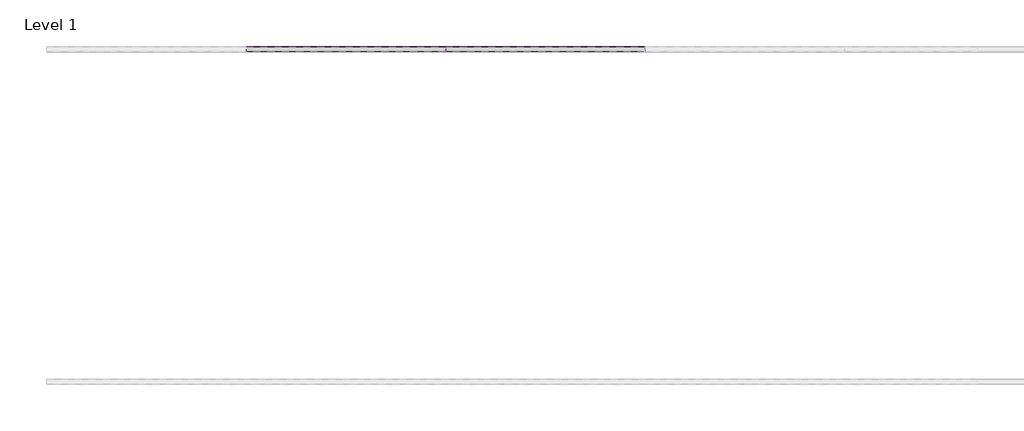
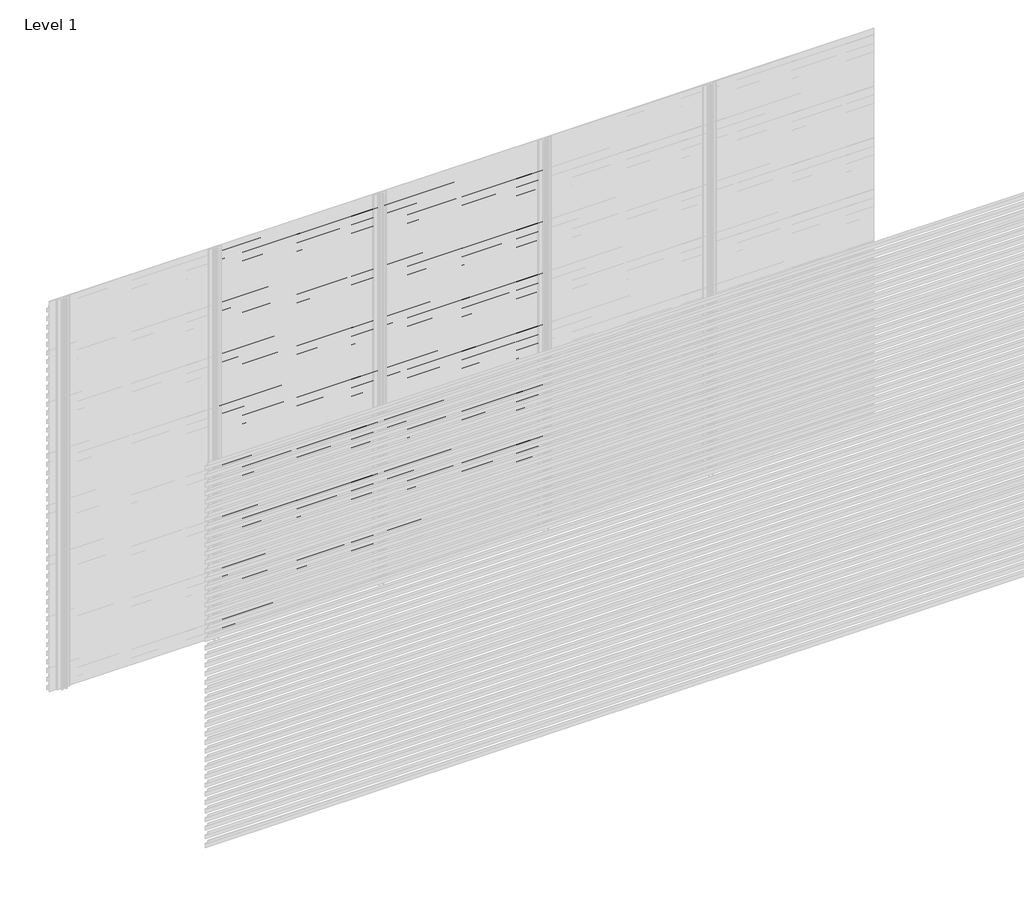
# One storey, part 44 of 540: 85 proxies.
"""IFC4 building model written with IfcOpenShell, lengths in millimetres."""

from ifc_helpers import new_model, si_unit, frame, origin, place, context, project, spatial, polyline, outline, extrude, element, save

model = new_model("IFC4")

# Units and contexts
model_context = context("Model", 3, world=origin())
ifc_project = project(units=[si_unit("LENGTHUNIT", "METRE", prefix="MILLI")], contexts=[model_context])

# Site, building, storey
site = spatial("IfcSite", under=ifc_project)
building = spatial("IfcBuilding", under=site)
storey = spatial("IfcBuildingStorey", under=building, Name="Level 1", Elevation=0.0)

# Proxies
placement = place(None, origin())
element("IfcBuildingElementProxy", 1, Name="Wall Sweeps", at=placement, inside=storey, context=model_context, shape_type="SweptSolid", body=[
    extrude(outline(polyline([(7018.0270068, 2930.0), (7018.0270068, 2897.0), (7016.7770068, 2897.7216933), (7016.7770068, 2929.2872415), (6987.0270068, 2950.0588647), (6987.0270068, 2970.0), (6988.2770068, 2970.0), (6988.2770068, 2950.7716232), (7018.0270068, 2930.0)])), frame((46166.6208097, 0.0, 0.0), z_axis=(1.0, 0.0, 0.0), x_axis=(0.0, 1.0, 0.0)), (0.0, 0.0, 1.0), 1200.0),
])
element("IfcBuildingElementProxy", 2, Name="Wall Sweeps", at=placement, inside=storey, context=model_context, shape_type="SweptSolid", body=[
    extrude(outline(polyline([(7018.0270068, 2864.0), (7018.0270068, 2831.0), (7016.7770068, 2831.7216933), (7016.7770068, 2863.2872415), (6987.0270068, 2884.0588647), (6987.0270068, 2904.0), (6988.2770068, 2904.0), (6988.2770068, 2884.7716232), (7018.0270068, 2864.0)])), frame((46166.6208097, 0.0, 0.0), z_axis=(1.0, 0.0, 0.0), x_axis=(0.0, 1.0, 0.0)), (0.0, 0.0, 1.0), 1200.0),
])
element("IfcBuildingElementProxy", 3, Name="Wall Sweeps", at=placement, inside=storey, context=model_context, shape_type="SweptSolid", body=[
    extrude(outline(polyline([(7018.0270068, 2798.0), (7018.0270068, 2765.0), (7016.7770068, 2765.7216933), (7016.7770068, 2797.2872415), (6987.0270068, 2818.0588647), (6987.0270068, 2838.0), (6988.2770068, 2838.0), (6988.2770068, 2818.7716232), (7018.0270068, 2798.0)])), frame((46166.6208097, 0.0, 0.0), z_axis=(1.0, 0.0, 0.0), x_axis=(0.0, 1.0, 0.0)), (0.0, 0.0, 1.0), 1200.0),
])
element("IfcBuildingElementProxy", 4, Name="Wall Sweeps", at=placement, inside=storey, context=model_context, shape_type="SweptSolid", body=[
    extrude(outline(polyline([(7018.0270068, 2732.0), (7018.0270068, 2699.0), (7016.7770068, 2699.7216933), (7016.7770068, 2731.2872415), (6987.0270068, 2752.0588647), (6987.0270068, 2772.0), (6988.2770068, 2772.0), (6988.2770068, 2752.7716232), (7018.0270068, 2732.0)])), frame((46166.6208097, 0.0, 0.0), z_axis=(1.0, 0.0, 0.0), x_axis=(0.0, 1.0, 0.0)), (0.0, 0.0, 1.0), 1200.0),
])
element("IfcBuildingElementProxy", 5, Name="Wall Sweeps", at=placement, inside=storey, context=model_context, shape_type="SweptSolid", body=[
    extrude(outline(polyline([(7018.0270068, 2666.0), (7018.0270068, 2633.0), (7016.7770068, 2633.7216933), (7016.7770068, 2665.2872415), (6987.0270068, 2686.0588647), (6987.0270068, 2706.0), (6988.2770068, 2706.0), (6988.2770068, 2686.7716232), (7018.0270068, 2666.0)])), frame((46166.6208097, 0.0, 0.0), z_axis=(1.0, 0.0, 0.0), x_axis=(0.0, 1.0, 0.0)), (0.0, 0.0, 1.0), 1200.0),
])
element("IfcBuildingElementProxy", 6, Name="Wall Sweeps", at=placement, inside=storey, context=model_context, shape_type="SweptSolid", body=[
    extrude(outline(polyline([(7018.0270068, 2600.0), (7018.0270068, 2567.0), (7016.7770068, 2567.7216933), (7016.7770068, 2599.2872415), (6987.0270068, 2620.0588647), (6987.0270068, 2640.0), (6988.2770068, 2640.0), (6988.2770068, 2620.7716232), (7018.0270068, 2600.0)])), frame((46166.6208097, 0.0, 0.0), z_axis=(1.0, 0.0, 0.0), x_axis=(0.0, 1.0, 0.0)), (0.0, 0.0, 1.0), 1200.0),
])
element("IfcBuildingElementProxy", 7, Name="Wall Sweeps", at=placement, inside=storey, context=model_context, shape_type="SweptSolid", body=[
    extrude(outline(polyline([(7018.0270068, 2534.0), (7018.0270068, 2501.0), (7016.7770068, 2501.7216933), (7016.7770068, 2533.2872415), (6987.0270068, 2554.0588647), (6987.0270068, 2574.0), (6988.2770068, 2574.0), (6988.2770068, 2554.7716232), (7018.0270068, 2534.0)])), frame((46166.6208097, 0.0, 0.0), z_axis=(1.0, 0.0, 0.0), x_axis=(0.0, 1.0, 0.0)), (0.0, 0.0, 1.0), 1200.0),
])
element("IfcBuildingElementProxy", 8, Name="Wall Sweeps", at=placement, inside=storey, context=model_context, shape_type="SweptSolid", body=[
    extrude(outline(polyline([(7018.0270068, 2468.0), (7018.0270068, 2435.0), (7016.7770068, 2435.7216933), (7016.7770068, 2467.2872415), (6987.0270068, 2488.0588647), (6987.0270068, 2508.0), (6988.2770068, 2508.0), (6988.2770068, 2488.7716232), (7018.0270068, 2468.0)])), frame((46166.6208097, 0.0, 0.0), z_axis=(1.0, 0.0, 0.0), x_axis=(0.0, 1.0, 0.0)), (0.0, 0.0, 1.0), 1200.0),
])
element("IfcBuildingElementProxy", 9, Name="Wall Sweeps", at=placement, inside=storey, context=model_context, shape_type="SweptSolid", body=[
    extrude(outline(polyline([(7018.0270068, 2402.0), (7018.0270068, 2369.0), (7016.7770068, 2369.7216933), (7016.7770068, 2401.2872415), (6987.0270068, 2422.0588647), (6987.0270068, 2442.0), (6988.2770068, 2442.0), (6988.2770068, 2422.7716232), (7018.0270068, 2402.0)])), frame((46166.6208097, 0.0, 0.0), z_axis=(1.0, 0.0, 0.0), x_axis=(0.0, 1.0, 0.0)), (0.0, 0.0, 1.0), 1200.0),
])
element("IfcBuildingElementProxy", 10, Name="Wall Sweeps", at=placement, inside=storey, context=model_context, shape_type="SweptSolid", body=[
    extrude(outline(polyline([(7018.0270068, 2336.0), (7018.0270068, 2303.0), (7016.7770068, 2303.7216933), (7016.7770068, 2335.2872415), (6987.0270068, 2356.0588647), (6987.0270068, 2376.0), (6988.2770068, 2376.0), (6988.2770068, 2356.7716232), (7018.0270068, 2336.0)])), frame((46166.6208097, 0.0, 0.0), z_axis=(1.0, 0.0, 0.0), x_axis=(0.0, 1.0, 0.0)), (0.0, 0.0, 1.0), 1200.0),
])
element("IfcBuildingElementProxy", 11, Name="Wall Sweeps", at=placement, inside=storey, context=model_context, shape_type="SweptSolid", body=[
    extrude(outline(polyline([(7018.0270068, 2270.0), (7018.0270068, 2237.0), (7016.7770068, 2237.7216933), (7016.7770068, 2269.2872415), (6987.0270068, 2290.0588647), (6987.0270068, 2310.0), (6988.2770068, 2310.0), (6988.2770068, 2290.7716232), (7018.0270068, 2270.0)])), frame((46166.6208097, 0.0, 0.0), z_axis=(1.0, 0.0, 0.0), x_axis=(0.0, 1.0, 0.0)), (0.0, 0.0, 1.0), 1200.0),
])
element("IfcBuildingElementProxy", 12, Name="Wall Sweeps", at=placement, inside=storey, context=model_context, shape_type="SweptSolid", body=[
    extrude(outline(polyline([(7018.0270068, 2204.0), (7018.0270068, 2171.0), (7016.7770068, 2171.7216933), (7016.7770068, 2203.2872415), (6987.0270068, 2224.0588647), (6987.0270068, 2244.0), (6988.2770068, 2244.0), (6988.2770068, 2224.7716232), (7018.0270068, 2204.0)])), frame((46166.6208097, 0.0, 0.0), z_axis=(1.0, 0.0, 0.0), x_axis=(0.0, 1.0, 0.0)), (0.0, 0.0, 1.0), 1200.0),
])
element("IfcBuildingElementProxy", 13, Name="Wall Sweeps", at=placement, inside=storey, context=model_context, shape_type="SweptSolid", body=[
    extrude(outline(polyline([(7018.0270068, 2138.0), (7018.0270068, 2105.0), (7016.7770068, 2105.7216933), (7016.7770068, 2137.2872415), (6987.0270068, 2158.0588647), (6987.0270068, 2178.0), (6988.2770068, 2178.0), (6988.2770068, 2158.7716232), (7018.0270068, 2138.0)])), frame((46166.6208097, 0.0, 0.0), z_axis=(1.0, 0.0, 0.0), x_axis=(0.0, 1.0, 0.0)), (0.0, 0.0, 1.0), 1200.0),
])
element("IfcBuildingElementProxy", 14, Name="Wall Sweeps", at=placement, inside=storey, context=model_context, shape_type="SweptSolid", body=[
    extrude(outline(polyline([(7018.0270068, 2072.0), (7018.0270068, 2039.0), (7016.7770068, 2039.7216933), (7016.7770068, 2071.2872415), (6987.0270068, 2092.0588647), (6987.0270068, 2112.0), (6988.2770068, 2112.0), (6988.2770068, 2092.7716232), (7018.0270068, 2072.0)])), frame((46166.6208097, 0.0, 0.0), z_axis=(1.0, 0.0, 0.0), x_axis=(0.0, 1.0, 0.0)), (0.0, 0.0, 1.0), 1200.0),
])
element("IfcBuildingElementProxy", 15, Name="Wall Sweeps", at=placement, inside=storey, context=model_context, shape_type="SweptSolid", body=[
    extrude(outline(polyline([(7018.0270068, 2006.0), (7018.0270068, 1973.0), (7016.7770068, 1973.7216933), (7016.7770068, 2005.2872415), (6987.0270068, 2026.0588647), (6987.0270068, 2046.0), (6988.2770068, 2046.0), (6988.2770068, 2026.7716232), (7018.0270068, 2006.0)])), frame((46166.6208097, 0.0, 0.0), z_axis=(1.0, 0.0, 0.0), x_axis=(0.0, 1.0, 0.0)), (0.0, 0.0, 1.0), 1200.0),
])
element("IfcBuildingElementProxy", 16, Name="Wall Sweeps", at=placement, inside=storey, context=model_context, shape_type="SweptSolid", body=[
    extrude(outline(polyline([(7018.0270068, 1940.0), (7018.0270068, 1907.0), (7016.7770068, 1907.7216933), (7016.7770068, 1939.2872415), (6987.0270068, 1960.0588647), (6987.0270068, 1980.0), (6988.2770068, 1980.0), (6988.2770068, 1960.7716232), (7018.0270068, 1940.0)])), frame((46166.6208097, 0.0, 0.0), z_axis=(1.0, 0.0, 0.0), x_axis=(0.0, 1.0, 0.0)), (0.0, 0.0, 1.0), 1200.0),
])
element("IfcBuildingElementProxy", 17, Name="Wall Sweeps", at=placement, inside=storey, context=model_context, shape_type="SweptSolid", body=[
    extrude(outline(polyline([(7018.0270068, 1874.0), (7018.0270068, 1841.0), (7016.7770068, 1841.7216933), (7016.7770068, 1873.2872415), (6987.0270068, 1894.0588647), (6987.0270068, 1914.0), (6988.2770068, 1914.0), (6988.2770068, 1894.7716232), (7018.0270068, 1874.0)])), frame((46166.6208097, 0.0, 0.0), z_axis=(1.0, 0.0, 0.0), x_axis=(0.0, 1.0, 0.0)), (0.0, 0.0, 1.0), 1200.0),
])
element("IfcBuildingElementProxy", 18, Name="Wall Sweeps", at=placement, inside=storey, context=model_context, shape_type="SweptSolid", body=[
    extrude(outline(polyline([(7018.0270068, 1808.0), (7018.0270068, 1775.0), (7016.7770068, 1775.7216933), (7016.7770068, 1807.2872415), (6987.0270068, 1828.0588647), (6987.0270068, 1848.0), (6988.2770068, 1848.0), (6988.2770068, 1828.7716232), (7018.0270068, 1808.0)])), frame((46166.6208097, 0.0, 0.0), z_axis=(1.0, 0.0, 0.0), x_axis=(0.0, 1.0, 0.0)), (0.0, 0.0, 1.0), 1200.0),
])
element("IfcBuildingElementProxy", 19, Name="Wall Sweeps", at=placement, inside=storey, context=model_context, shape_type="SweptSolid", body=[
    extrude(outline(polyline([(7018.0270068, 1742.0), (7018.0270068, 1709.0), (7016.7770068, 1709.7216933), (7016.7770068, 1741.2872415), (6987.0270068, 1762.0588647), (6987.0270068, 1782.0), (6988.2770068, 1782.0), (6988.2770068, 1762.7716232), (7018.0270068, 1742.0)])), frame((46166.6208097, 0.0, 0.0), z_axis=(1.0, 0.0, 0.0), x_axis=(0.0, 1.0, 0.0)), (0.0, 0.0, 1.0), 1200.0),
])
element("IfcBuildingElementProxy", 20, Name="Wall Sweeps", at=placement, inside=storey, context=model_context, shape_type="SweptSolid", body=[
    extrude(outline(polyline([(7018.0270068, 1676.0), (7018.0270068, 1643.0), (7016.7770068, 1643.7216933), (7016.7770068, 1675.2872415), (6987.0270068, 1696.0588647), (6987.0270068, 1716.0), (6988.2770068, 1716.0), (6988.2770068, 1696.7716232), (7018.0270068, 1676.0)])), frame((46166.6208097, 0.0, 0.0), z_axis=(1.0, 0.0, 0.0), x_axis=(0.0, 1.0, 0.0)), (0.0, 0.0, 1.0), 1200.0),
])
element("IfcBuildingElementProxy", 21, Name="Wall Sweeps", at=placement, inside=storey, context=model_context, shape_type="SweptSolid", body=[
    extrude(outline(polyline([(7018.0270068, 1610.0), (7018.0270068, 1577.0), (7016.7770068, 1577.7216933), (7016.7770068, 1609.2872415), (6987.0270068, 1630.0588647), (6987.0270068, 1650.0), (6988.2770068, 1650.0), (6988.2770068, 1630.7716232), (7018.0270068, 1610.0)])), frame((46166.6208097, 0.0, 0.0), z_axis=(1.0, 0.0, 0.0), x_axis=(0.0, 1.0, 0.0)), (0.0, 0.0, 1.0), 1200.0),
])
element("IfcBuildingElementProxy", 22, Name="Wall Sweeps", at=placement, inside=storey, context=model_context, shape_type="SweptSolid", body=[
    extrude(outline(polyline([(7018.0270068, 1544.0), (7018.0270068, 1511.0), (7016.7770068, 1511.7216933), (7016.7770068, 1543.2872415), (6987.0270068, 1564.0588647), (6987.0270068, 1584.0), (6988.2770068, 1584.0), (6988.2770068, 1564.7716232), (7018.0270068, 1544.0)])), frame((46166.6208097, 0.0, 0.0), z_axis=(1.0, 0.0, 0.0), x_axis=(0.0, 1.0, 0.0)), (0.0, 0.0, 1.0), 1200.0),
])
element("IfcBuildingElementProxy", 23, Name="Wall Sweeps", at=placement, inside=storey, context=model_context, shape_type="SweptSolid", body=[
    extrude(outline(polyline([(7018.0270068, 1478.0), (7018.0270068, 1445.0), (7016.7770068, 1445.7216933), (7016.7770068, 1477.2872415), (6987.0270068, 1498.0588647), (6987.0270068, 1518.0), (6988.2770068, 1518.0), (6988.2770068, 1498.7716232), (7018.0270068, 1478.0)])), frame((46166.6208097, 0.0, 0.0), z_axis=(1.0, 0.0, 0.0), x_axis=(0.0, 1.0, 0.0)), (0.0, 0.0, 1.0), 1200.0),
])
element("IfcBuildingElementProxy", 24, Name="Wall Sweeps", at=placement, inside=storey, context=model_context, shape_type="SweptSolid", body=[
    extrude(outline(polyline([(7018.0270068, 1412.0), (7018.0270068, 1379.0), (7016.7770068, 1379.7216933), (7016.7770068, 1411.2872415), (6987.0270068, 1432.0588647), (6987.0270068, 1452.0), (6988.2770068, 1452.0), (6988.2770068, 1432.7716232), (7018.0270068, 1412.0)])), frame((46166.6208097, 0.0, 0.0), z_axis=(1.0, 0.0, 0.0), x_axis=(0.0, 1.0, 0.0)), (0.0, 0.0, 1.0), 1200.0),
])
element("IfcBuildingElementProxy", 25, Name="Wall Sweeps", at=placement, inside=storey, context=model_context, shape_type="SweptSolid", body=[
    extrude(outline(polyline([(7018.0270068, 1346.0), (7018.0270068, 1313.0), (7016.7770068, 1313.7216933), (7016.7770068, 1345.2872415), (6987.0270068, 1366.0588647), (6987.0270068, 1386.0), (6988.2770068, 1386.0), (6988.2770068, 1366.7716232), (7018.0270068, 1346.0)])), frame((46166.6208097, 0.0, 0.0), z_axis=(1.0, 0.0, 0.0), x_axis=(0.0, 1.0, 0.0)), (0.0, 0.0, 1.0), 1200.0),
])
element("IfcBuildingElementProxy", 26, Name="Wall Sweeps", at=placement, inside=storey, context=model_context, shape_type="SweptSolid", body=[
    extrude(outline(polyline([(7018.0270068, 1280.0), (7018.0270068, 1247.0), (7016.7770068, 1247.7216933), (7016.7770068, 1279.2872415), (6987.0270068, 1300.0588647), (6987.0270068, 1320.0), (6988.2770068, 1320.0), (6988.2770068, 1300.7716232), (7018.0270068, 1280.0)])), frame((46166.6208097, 0.0, 0.0), z_axis=(1.0, 0.0, 0.0), x_axis=(0.0, 1.0, 0.0)), (0.0, 0.0, 1.0), 1200.0),
])
element("IfcBuildingElementProxy", 27, Name="Wall Sweeps", at=placement, inside=storey, context=model_context, shape_type="SweptSolid", body=[
    extrude(outline(polyline([(7018.0270068, 1214.0), (7018.0270068, 1181.0), (7016.7770068, 1181.7216933), (7016.7770068, 1213.2872415), (6987.0270068, 1234.0588647), (6987.0270068, 1254.0), (6988.2770068, 1254.0), (6988.2770068, 1234.7716232), (7018.0270068, 1214.0)])), frame((46166.6208097, 0.0, 0.0), z_axis=(1.0, 0.0, 0.0), x_axis=(0.0, 1.0, 0.0)), (0.0, 0.0, 1.0), 1200.0),
])
element("IfcBuildingElementProxy", 28, Name="Wall Sweeps", at=placement, inside=storey, context=model_context, shape_type="SweptSolid", body=[
    extrude(outline(polyline([(7018.0270068, 1148.0), (7018.0270068, 1115.0), (7016.7770068, 1115.7216933), (7016.7770068, 1147.2872415), (6987.0270068, 1168.0588647), (6987.0270068, 1188.0), (6988.2770068, 1188.0), (6988.2770068, 1168.7716232), (7018.0270068, 1148.0)])), frame((46166.6208097, 0.0, 0.0), z_axis=(1.0, 0.0, 0.0), x_axis=(0.0, 1.0, 0.0)), (0.0, 0.0, 1.0), 1200.0),
])
element("IfcBuildingElementProxy", 29, Name="Wall Sweeps", at=placement, inside=storey, context=model_context, shape_type="SweptSolid", body=[
    extrude(outline(polyline([(7018.0270068, 1082.0), (7018.0270068, 1049.0), (7016.7770068, 1049.7216933), (7016.7770068, 1081.2872415), (6987.0270068, 1102.0588647), (6987.0270068, 1122.0), (6988.2770068, 1122.0), (6988.2770068, 1102.7716232), (7018.0270068, 1082.0)])), frame((46166.6208097, 0.0, 0.0), z_axis=(1.0, 0.0, 0.0), x_axis=(0.0, 1.0, 0.0)), (0.0, 0.0, 1.0), 1200.0),
])
element("IfcBuildingElementProxy", 30, Name="Wall Sweeps", at=placement, inside=storey, context=model_context, shape_type="SweptSolid", body=[
    extrude(outline(polyline([(7018.0270068, 1016.0), (7018.0270068, 983.0), (7016.7770068, 983.7216933), (7016.7770068, 1015.2872415), (6987.0270068, 1036.0588647), (6987.0270068, 1056.0), (6988.2770068, 1056.0), (6988.2770068, 1036.7716232), (7018.0270068, 1016.0)])), frame((46166.6208097, 0.0, 0.0), z_axis=(1.0, 0.0, 0.0), x_axis=(0.0, 1.0, 0.0)), (0.0, 0.0, 1.0), 1200.0),
])
element("IfcBuildingElementProxy", 31, Name="Wall Sweeps", at=placement, inside=storey, context=model_context, shape_type="SweptSolid", body=[
    extrude(outline(polyline([(7018.0270068, 950.0), (7018.0270068, 917.0), (7016.7770068, 917.7216933), (7016.7770068, 949.2872415), (6987.0270068, 970.0588647), (6987.0270068, 990.0), (6988.2770068, 990.0), (6988.2770068, 970.7716232), (7018.0270068, 950.0)])), frame((46166.6208097, 0.0, 0.0), z_axis=(1.0, 0.0, 0.0), x_axis=(0.0, 1.0, 0.0)), (0.0, 0.0, 1.0), 1200.0),
])
element("IfcBuildingElementProxy", 32, Name="Wall Sweeps", at=placement, inside=storey, context=model_context, shape_type="SweptSolid", body=[
    extrude(outline(polyline([(7018.0270068, 884.0), (7018.0270068, 851.0), (7016.7770068, 851.7216933), (7016.7770068, 883.2872415), (6987.0270068, 904.0588647), (6987.0270068, 924.0), (6988.2770068, 924.0), (6988.2770068, 904.7716232), (7018.0270068, 884.0)])), frame((46166.6208097, 0.0, 0.0), z_axis=(1.0, 0.0, 0.0), x_axis=(0.0, 1.0, 0.0)), (0.0, 0.0, 1.0), 1200.0),
])
element("IfcBuildingElementProxy", 33, Name="Wall Sweeps", at=placement, inside=storey, context=model_context, shape_type="SweptSolid", body=[
    extrude(outline(polyline([(7018.0270068, 818.0), (7018.0270068, 785.0), (7016.7770068, 785.7216933), (7016.7770068, 817.2872415), (6987.0270068, 838.0588647), (6987.0270068, 858.0), (6988.2770068, 858.0), (6988.2770068, 838.7716232), (7018.0270068, 818.0)])), frame((46166.6208097, 0.0, 0.0), z_axis=(1.0, 0.0, 0.0), x_axis=(0.0, 1.0, 0.0)), (0.0, 0.0, 1.0), 1200.0),
])
element("IfcBuildingElementProxy", 34, Name="Wall Sweeps", at=placement, inside=storey, context=model_context, shape_type="SweptSolid", body=[
    extrude(outline(polyline([(7018.0270068, 752.0), (7018.0270068, 719.0), (7016.7770068, 719.7216933), (7016.7770068, 751.2872415), (6987.0270068, 772.0588647), (6987.0270068, 792.0), (6988.2770068, 792.0), (6988.2770068, 772.7716232), (7018.0270068, 752.0)])), frame((46166.6208097, 0.0, 0.0), z_axis=(1.0, 0.0, 0.0), x_axis=(0.0, 1.0, 0.0)), (0.0, 0.0, 1.0), 1200.0),
])
element("IfcBuildingElementProxy", 35, Name="Wall Sweeps", at=placement, inside=storey, context=model_context, shape_type="SweptSolid", body=[
    extrude(outline(polyline([(7018.0270068, 686.0), (7018.0270068, 653.0), (7016.7770068, 653.7216933), (7016.7770068, 685.2872415), (6987.0270068, 706.0588647), (6987.0270068, 726.0), (6988.2770068, 726.0), (6988.2770068, 706.7716232), (7018.0270068, 686.0)])), frame((46166.6208097, 0.0, 0.0), z_axis=(1.0, 0.0, 0.0), x_axis=(0.0, 1.0, 0.0)), (0.0, 0.0, 1.0), 1200.0),
])
element("IfcBuildingElementProxy", 36, Name="Wall Sweeps", at=placement, inside=storey, context=model_context, shape_type="SweptSolid", body=[
    extrude(outline(polyline([(7018.0270068, 620.0), (7018.0270068, 587.0), (7016.7770068, 587.7216933), (7016.7770068, 619.2872415), (6987.0270068, 640.0588647), (6987.0270068, 660.0), (6988.2770068, 660.0), (6988.2770068, 640.7716232), (7018.0270068, 620.0)])), frame((46166.6208097, 0.0, 0.0), z_axis=(1.0, 0.0, 0.0), x_axis=(0.0, 1.0, 0.0)), (0.0, 0.0, 1.0), 1200.0),
])
element("IfcBuildingElementProxy", 37, Name="Wall Sweeps", at=placement, inside=storey, context=model_context, shape_type="SweptSolid", body=[
    extrude(outline(polyline([(7018.0270068, 554.0), (7018.0270068, 521.0), (7016.7770068, 521.7216933), (7016.7770068, 553.2872415), (6987.0270068, 574.0588647), (6987.0270068, 594.0), (6988.2770068, 594.0), (6988.2770068, 574.7716232), (7018.0270068, 554.0)])), frame((46166.6208097, 0.0, 0.0), z_axis=(1.0, 0.0, 0.0), x_axis=(0.0, 1.0, 0.0)), (0.0, 0.0, 1.0), 1200.0),
])
element("IfcBuildingElementProxy", 38, Name="Wall Sweeps", at=placement, inside=storey, context=model_context, shape_type="SweptSolid", body=[
    extrude(outline(polyline([(7018.0270068, 488.0), (7018.0270068, 455.0), (7016.7770068, 455.7216933), (7016.7770068, 487.2872415), (6987.0270068, 508.0588647), (6987.0270068, 528.0), (6988.2770068, 528.0), (6988.2770068, 508.7716232), (7018.0270068, 488.0)])), frame((46166.6208097, 0.0, 0.0), z_axis=(1.0, 0.0, 0.0), x_axis=(0.0, 1.0, 0.0)), (0.0, 0.0, 1.0), 1200.0),
])
element("IfcBuildingElementProxy", 39, Name="Wall Sweeps", at=placement, inside=storey, context=model_context, shape_type="SweptSolid", body=[
    extrude(outline(polyline([(7018.0270068, 422.0), (7018.0270068, 389.0), (7016.7770068, 389.7216933), (7016.7770068, 421.2872415), (6987.0270068, 442.0588647), (6987.0270068, 462.0), (6988.2770068, 462.0), (6988.2770068, 442.7716232), (7018.0270068, 422.0)])), frame((46166.6208097, 0.0, 0.0), z_axis=(1.0, 0.0, 0.0), x_axis=(0.0, 1.0, 0.0)), (0.0, 0.0, 1.0), 1200.0),
])
element("IfcBuildingElementProxy", 40, Name="Wall Sweeps", at=placement, inside=storey, context=model_context, shape_type="SweptSolid", body=[
    extrude(outline(polyline([(7018.0270068, 356.0), (7018.0270068, 323.0), (7016.7770068, 323.7216933), (7016.7770068, 355.2872415), (6987.0270068, 376.0588647), (6987.0270068, 396.0), (6988.2770068, 396.0), (6988.2770068, 376.7716232), (7018.0270068, 356.0)])), frame((46166.6208097, 0.0, 0.0), z_axis=(1.0, 0.0, 0.0), x_axis=(0.0, 1.0, 0.0)), (0.0, 0.0, 1.0), 1200.0),
])
element("IfcBuildingElementProxy", 41, Name="Wall Sweeps", at=placement, inside=storey, context=model_context, shape_type="SweptSolid", body=[
    extrude(outline(polyline([(7018.0270068, 290.0), (7018.0270068, 257.0), (7016.7770068, 257.7216933), (7016.7770068, 289.2872415), (6987.0270068, 310.0588647), (6987.0270068, 330.0), (6988.2770068, 330.0), (6988.2770068, 310.7716232), (7018.0270068, 290.0)])), frame((46166.6208097, 0.0, 0.0), z_axis=(1.0, 0.0, 0.0), x_axis=(0.0, 1.0, 0.0)), (0.0, 0.0, 1.0), 1200.0),
])
element("IfcBuildingElementProxy", 42, Name="Wall Sweeps", at=placement, inside=storey, context=model_context, shape_type="SweptSolid", body=[
    extrude(outline(polyline([(7018.0270068, 224.0), (7018.0270068, 191.0), (7016.7770068, 191.7216933), (7016.7770068, 223.2872415), (6987.0270068, 244.0588647), (6987.0270068, 264.0), (6988.2770068, 264.0), (6988.2770068, 244.7716232), (7018.0270068, 224.0)])), frame((46166.6208097, 0.0, 0.0), z_axis=(1.0, 0.0, 0.0), x_axis=(0.0, 1.0, 0.0)), (0.0, 0.0, 1.0), 1200.0),
])
element("IfcBuildingElementProxy", 43, Name="Wall Sweeps", at=placement, inside=storey, context=model_context, shape_type="SweptSolid", body=[
    extrude(outline(polyline([(7018.0270068, 158.0), (7018.0270068, 125.0), (7016.7770068, 125.7216933), (7016.7770068, 157.2872415), (6987.0270068, 178.0588647), (6987.0270068, 198.0), (6988.2770068, 198.0), (6988.2770068, 178.7716232), (7018.0270068, 158.0)])), frame((46166.6208097, 0.0, 0.0), z_axis=(1.0, 0.0, 0.0), x_axis=(0.0, 1.0, 0.0)), (0.0, 0.0, 1.0), 1200.0),
])
element("IfcBuildingElementProxy", 44, Name="Wall Sweeps", at=placement, inside=storey, context=model_context, shape_type="SweptSolid", body=[
    extrude(outline(polyline([(7018.0270068, 92.0), (7018.0270068, 59.0), (7016.7770068, 59.7216933), (7016.7770068, 91.2872415), (6987.0270068, 112.0588647), (6987.0270068, 132.0), (6988.2770068, 132.0), (6988.2770068, 112.7716232), (7018.0270068, 92.0)])), frame((46166.6208097, 0.0, 0.0), z_axis=(1.0, 0.0, 0.0), x_axis=(0.0, 1.0, 0.0)), (0.0, 0.0, 1.0), 1200.0),
])
element("IfcBuildingElementProxy", 45, Name="Wall Sweeps", at=placement, inside=storey, context=model_context, shape_type="SweptSolid", body=[
    extrude(outline(polyline([(7018.0270068, 26.0), (7018.0270068, -7.0), (7016.7770068, -6.2783067), (7016.7770068, 25.2872415), (6987.0270068, 46.0588647), (6987.0270068, 66.0), (6988.2770068, 66.0), (6988.2770068, 46.7716232), (7018.0270068, 26.0)])), frame((46166.6208097, 0.0, 0.0), z_axis=(1.0, 0.0, 0.0), x_axis=(0.0, 1.0, 0.0)), (0.0, 0.0, 1.0), 1200.0),
])
element("IfcBuildingElementProxy", 46, Name="Wall Sweeps", at=placement, inside=storey, context=model_context, shape_type="SweptSolid", body=[
    extrude(outline(polyline([(7018.0270068, 2930.0), (7018.0270068, 2897.0), (7016.7770068, 2897.7216933), (7016.7770068, 2929.2872415), (6987.0270068, 2950.0588647), (6987.0270068, 2970.0), (6988.2770068, 2970.0), (6988.2770068, 2950.7716232), (7018.0270068, 2930.0)])), frame((47366.6208097, 0.0, 0.0), z_axis=(1.0, 0.0, 0.0), x_axis=(0.0, 1.0, 0.0)), (0.0, 0.0, 1.0), 1200.0),
])
element("IfcBuildingElementProxy", 47, Name="Wall Sweeps", at=placement, inside=storey, context=model_context, shape_type="SweptSolid", body=[
    extrude(outline(polyline([(7018.0270068, 2864.0), (7018.0270068, 2831.0), (7016.7770068, 2831.7216933), (7016.7770068, 2863.2872415), (6987.0270068, 2884.0588647), (6987.0270068, 2904.0), (6988.2770068, 2904.0), (6988.2770068, 2884.7716232), (7018.0270068, 2864.0)])), frame((47366.6208097, 0.0, 0.0), z_axis=(1.0, 0.0, 0.0), x_axis=(0.0, 1.0, 0.0)), (0.0, 0.0, 1.0), 1200.0),
])
element("IfcBuildingElementProxy", 48, Name="Wall Sweeps", at=placement, inside=storey, context=model_context, shape_type="SweptSolid", body=[
    extrude(outline(polyline([(7018.0270068, 2798.0), (7018.0270068, 2765.0), (7016.7770068, 2765.7216933), (7016.7770068, 2797.2872415), (6987.0270068, 2818.0588647), (6987.0270068, 2838.0), (6988.2770068, 2838.0), (6988.2770068, 2818.7716232), (7018.0270068, 2798.0)])), frame((47366.6208097, 0.0, 0.0), z_axis=(1.0, 0.0, 0.0), x_axis=(0.0, 1.0, 0.0)), (0.0, 0.0, 1.0), 1200.0),
])
element("IfcBuildingElementProxy", 49, Name="Wall Sweeps", at=placement, inside=storey, context=model_context, shape_type="SweptSolid", body=[
    extrude(outline(polyline([(7018.0270068, 2732.0), (7018.0270068, 2699.0), (7016.7770068, 2699.7216933), (7016.7770068, 2731.2872415), (6987.0270068, 2752.0588647), (6987.0270068, 2772.0), (6988.2770068, 2772.0), (6988.2770068, 2752.7716232), (7018.0270068, 2732.0)])), frame((47366.6208097, 0.0, 0.0), z_axis=(1.0, 0.0, 0.0), x_axis=(0.0, 1.0, 0.0)), (0.0, 0.0, 1.0), 1200.0),
])
element("IfcBuildingElementProxy", 50, Name="Wall Sweeps", at=placement, inside=storey, context=model_context, shape_type="SweptSolid", body=[
    extrude(outline(polyline([(7018.0270068, 2666.0), (7018.0270068, 2633.0), (7016.7770068, 2633.7216933), (7016.7770068, 2665.2872415), (6987.0270068, 2686.0588647), (6987.0270068, 2706.0), (6988.2770068, 2706.0), (6988.2770068, 2686.7716232), (7018.0270068, 2666.0)])), frame((47366.6208097, 0.0, 0.0), z_axis=(1.0, 0.0, 0.0), x_axis=(0.0, 1.0, 0.0)), (0.0, 0.0, 1.0), 1200.0),
])
element("IfcBuildingElementProxy", 51, Name="Wall Sweeps", at=placement, inside=storey, context=model_context, shape_type="SweptSolid", body=[
    extrude(outline(polyline([(7018.0270068, 2600.0), (7018.0270068, 2567.0), (7016.7770068, 2567.7216933), (7016.7770068, 2599.2872415), (6987.0270068, 2620.0588647), (6987.0270068, 2640.0), (6988.2770068, 2640.0), (6988.2770068, 2620.7716232), (7018.0270068, 2600.0)])), frame((47366.6208097, 0.0, 0.0), z_axis=(1.0, 0.0, 0.0), x_axis=(0.0, 1.0, 0.0)), (0.0, 0.0, 1.0), 1200.0),
])
element("IfcBuildingElementProxy", 52, Name="Wall Sweeps", at=placement, inside=storey, context=model_context, shape_type="SweptSolid", body=[
    extrude(outline(polyline([(7018.0270068, 2534.0), (7018.0270068, 2501.0), (7016.7770068, 2501.7216933), (7016.7770068, 2533.2872415), (6987.0270068, 2554.0588647), (6987.0270068, 2574.0), (6988.2770068, 2574.0), (6988.2770068, 2554.7716232), (7018.0270068, 2534.0)])), frame((47366.6208097, 0.0, 0.0), z_axis=(1.0, 0.0, 0.0), x_axis=(0.0, 1.0, 0.0)), (0.0, 0.0, 1.0), 1200.0),
])
element("IfcBuildingElementProxy", 53, Name="Wall Sweeps", at=placement, inside=storey, context=model_context, shape_type="SweptSolid", body=[
    extrude(outline(polyline([(7018.0270068, 2468.0), (7018.0270068, 2435.0), (7016.7770068, 2435.7216933), (7016.7770068, 2467.2872415), (6987.0270068, 2488.0588647), (6987.0270068, 2508.0), (6988.2770068, 2508.0), (6988.2770068, 2488.7716232), (7018.0270068, 2468.0)])), frame((47366.6208097, 0.0, 0.0), z_axis=(1.0, 0.0, 0.0), x_axis=(0.0, 1.0, 0.0)), (0.0, 0.0, 1.0), 1200.0),
])
element("IfcBuildingElementProxy", 54, Name="Wall Sweeps", at=placement, inside=storey, context=model_context, shape_type="SweptSolid", body=[
    extrude(outline(polyline([(7018.0270068, 2402.0), (7018.0270068, 2369.0), (7016.7770068, 2369.7216933), (7016.7770068, 2401.2872415), (6987.0270068, 2422.0588647), (6987.0270068, 2442.0), (6988.2770068, 2442.0), (6988.2770068, 2422.7716232), (7018.0270068, 2402.0)])), frame((47366.6208097, 0.0, 0.0), z_axis=(1.0, 0.0, 0.0), x_axis=(0.0, 1.0, 0.0)), (0.0, 0.0, 1.0), 1200.0),
])
element("IfcBuildingElementProxy", 55, Name="Wall Sweeps", at=placement, inside=storey, context=model_context, shape_type="SweptSolid", body=[
    extrude(outline(polyline([(7018.0270068, 2336.0), (7018.0270068, 2303.0), (7016.7770068, 2303.7216933), (7016.7770068, 2335.2872415), (6987.0270068, 2356.0588647), (6987.0270068, 2376.0), (6988.2770068, 2376.0), (6988.2770068, 2356.7716232), (7018.0270068, 2336.0)])), frame((47366.6208097, 0.0, 0.0), z_axis=(1.0, 0.0, 0.0), x_axis=(0.0, 1.0, 0.0)), (0.0, 0.0, 1.0), 1200.0),
])
element("IfcBuildingElementProxy", 56, Name="Wall Sweeps", at=placement, inside=storey, context=model_context, shape_type="SweptSolid", body=[
    extrude(outline(polyline([(7018.0270068, 2270.0), (7018.0270068, 2237.0), (7016.7770068, 2237.7216933), (7016.7770068, 2269.2872415), (6987.0270068, 2290.0588647), (6987.0270068, 2310.0), (6988.2770068, 2310.0), (6988.2770068, 2290.7716232), (7018.0270068, 2270.0)])), frame((47366.6208097, 0.0, 0.0), z_axis=(1.0, 0.0, 0.0), x_axis=(0.0, 1.0, 0.0)), (0.0, 0.0, 1.0), 1200.0),
])
element("IfcBuildingElementProxy", 57, Name="Wall Sweeps", at=placement, inside=storey, context=model_context, shape_type="SweptSolid", body=[
    extrude(outline(polyline([(7018.0270068, 2204.0), (7018.0270068, 2171.0), (7016.7770068, 2171.7216933), (7016.7770068, 2203.2872415), (6987.0270068, 2224.0588647), (6987.0270068, 2244.0), (6988.2770068, 2244.0), (6988.2770068, 2224.7716232), (7018.0270068, 2204.0)])), frame((47366.6208097, 0.0, 0.0), z_axis=(1.0, 0.0, 0.0), x_axis=(0.0, 1.0, 0.0)), (0.0, 0.0, 1.0), 1200.0),
])
element("IfcBuildingElementProxy", 58, Name="Wall Sweeps", at=placement, inside=storey, context=model_context, shape_type="SweptSolid", body=[
    extrude(outline(polyline([(7018.0270068, 2138.0), (7018.0270068, 2105.0), (7016.7770068, 2105.7216933), (7016.7770068, 2137.2872415), (6987.0270068, 2158.0588647), (6987.0270068, 2178.0), (6988.2770068, 2178.0), (6988.2770068, 2158.7716232), (7018.0270068, 2138.0)])), frame((47366.6208097, 0.0, 0.0), z_axis=(1.0, 0.0, 0.0), x_axis=(0.0, 1.0, 0.0)), (0.0, 0.0, 1.0), 1200.0),
])
element("IfcBuildingElementProxy", 59, Name="Wall Sweeps", at=placement, inside=storey, context=model_context, shape_type="SweptSolid", body=[
    extrude(outline(polyline([(7018.0270068, 2072.0), (7018.0270068, 2039.0), (7016.7770068, 2039.7216933), (7016.7770068, 2071.2872415), (6987.0270068, 2092.0588647), (6987.0270068, 2112.0), (6988.2770068, 2112.0), (6988.2770068, 2092.7716232), (7018.0270068, 2072.0)])), frame((47366.6208097, 0.0, 0.0), z_axis=(1.0, 0.0, 0.0), x_axis=(0.0, 1.0, 0.0)), (0.0, 0.0, 1.0), 1200.0),
])
element("IfcBuildingElementProxy", 60, Name="Wall Sweeps", at=placement, inside=storey, context=model_context, shape_type="SweptSolid", body=[
    extrude(outline(polyline([(7018.0270068, 2006.0), (7018.0270068, 1973.0), (7016.7770068, 1973.7216933), (7016.7770068, 2005.2872415), (6987.0270068, 2026.0588647), (6987.0270068, 2046.0), (6988.2770068, 2046.0), (6988.2770068, 2026.7716232), (7018.0270068, 2006.0)])), frame((47366.6208097, 0.0, 0.0), z_axis=(1.0, 0.0, 0.0), x_axis=(0.0, 1.0, 0.0)), (0.0, 0.0, 1.0), 1200.0),
])
element("IfcBuildingElementProxy", 61, Name="Wall Sweeps", at=placement, inside=storey, context=model_context, shape_type="SweptSolid", body=[
    extrude(outline(polyline([(7018.0270068, 1940.0), (7018.0270068, 1907.0), (7016.7770068, 1907.7216933), (7016.7770068, 1939.2872415), (6987.0270068, 1960.0588647), (6987.0270068, 1980.0), (6988.2770068, 1980.0), (6988.2770068, 1960.7716232), (7018.0270068, 1940.0)])), frame((47366.6208097, 0.0, 0.0), z_axis=(1.0, 0.0, 0.0), x_axis=(0.0, 1.0, 0.0)), (0.0, 0.0, 1.0), 1200.0),
])
element("IfcBuildingElementProxy", 62, Name="Wall Sweeps", at=placement, inside=storey, context=model_context, shape_type="SweptSolid", body=[
    extrude(outline(polyline([(7018.0270068, 1874.0), (7018.0270068, 1841.0), (7016.7770068, 1841.7216933), (7016.7770068, 1873.2872415), (6987.0270068, 1894.0588647), (6987.0270068, 1914.0), (6988.2770068, 1914.0), (6988.2770068, 1894.7716232), (7018.0270068, 1874.0)])), frame((47366.6208097, 0.0, 0.0), z_axis=(1.0, 0.0, 0.0), x_axis=(0.0, 1.0, 0.0)), (0.0, 0.0, 1.0), 1200.0),
])
element("IfcBuildingElementProxy", 63, Name="Wall Sweeps", at=placement, inside=storey, context=model_context, shape_type="SweptSolid", body=[
    extrude(outline(polyline([(7018.0270068, 1808.0), (7018.0270068, 1775.0), (7016.7770068, 1775.7216933), (7016.7770068, 1807.2872415), (6987.0270068, 1828.0588647), (6987.0270068, 1848.0), (6988.2770068, 1848.0), (6988.2770068, 1828.7716232), (7018.0270068, 1808.0)])), frame((47366.6208097, 0.0, 0.0), z_axis=(1.0, 0.0, 0.0), x_axis=(0.0, 1.0, 0.0)), (0.0, 0.0, 1.0), 1200.0),
])
element("IfcBuildingElementProxy", 64, Name="Wall Sweeps", at=placement, inside=storey, context=model_context, shape_type="SweptSolid", body=[
    extrude(outline(polyline([(7018.0270068, 1742.0), (7018.0270068, 1709.0), (7016.7770068, 1709.7216933), (7016.7770068, 1741.2872415), (6987.0270068, 1762.0588647), (6987.0270068, 1782.0), (6988.2770068, 1782.0), (6988.2770068, 1762.7716232), (7018.0270068, 1742.0)])), frame((47366.6208097, 0.0, 0.0), z_axis=(1.0, 0.0, 0.0), x_axis=(0.0, 1.0, 0.0)), (0.0, 0.0, 1.0), 1200.0),
])
element("IfcBuildingElementProxy", 65, Name="Wall Sweeps", at=placement, inside=storey, context=model_context, shape_type="SweptSolid", body=[
    extrude(outline(polyline([(7018.0270068, 1676.0), (7018.0270068, 1643.0), (7016.7770068, 1643.7216933), (7016.7770068, 1675.2872415), (6987.0270068, 1696.0588647), (6987.0270068, 1716.0), (6988.2770068, 1716.0), (6988.2770068, 1696.7716232), (7018.0270068, 1676.0)])), frame((47366.6208097, 0.0, 0.0), z_axis=(1.0, 0.0, 0.0), x_axis=(0.0, 1.0, 0.0)), (0.0, 0.0, 1.0), 1200.0),
])
element("IfcBuildingElementProxy", 66, Name="Wall Sweeps", at=placement, inside=storey, context=model_context, shape_type="SweptSolid", body=[
    extrude(outline(polyline([(7018.0270068, 1610.0), (7018.0270068, 1577.0), (7016.7770068, 1577.7216933), (7016.7770068, 1609.2872415), (6987.0270068, 1630.0588647), (6987.0270068, 1650.0), (6988.2770068, 1650.0), (6988.2770068, 1630.7716232), (7018.0270068, 1610.0)])), frame((47366.6208097, 0.0, 0.0), z_axis=(1.0, 0.0, 0.0), x_axis=(0.0, 1.0, 0.0)), (0.0, 0.0, 1.0), 1200.0),
])
element("IfcBuildingElementProxy", 67, Name="Wall Sweeps", at=placement, inside=storey, context=model_context, shape_type="SweptSolid", body=[
    extrude(outline(polyline([(7018.0270068, 1544.0), (7018.0270068, 1511.0), (7016.7770068, 1511.7216933), (7016.7770068, 1543.2872415), (6987.0270068, 1564.0588647), (6987.0270068, 1584.0), (6988.2770068, 1584.0), (6988.2770068, 1564.7716232), (7018.0270068, 1544.0)])), frame((47366.6208097, 0.0, 0.0), z_axis=(1.0, 0.0, 0.0), x_axis=(0.0, 1.0, 0.0)), (0.0, 0.0, 1.0), 1200.0),
])
element("IfcBuildingElementProxy", 68, Name="Wall Sweeps", at=placement, inside=storey, context=model_context, shape_type="SweptSolid", body=[
    extrude(outline(polyline([(7018.0270068, 1478.0), (7018.0270068, 1445.0), (7016.7770068, 1445.7216933), (7016.7770068, 1477.2872415), (6987.0270068, 1498.0588647), (6987.0270068, 1518.0), (6988.2770068, 1518.0), (6988.2770068, 1498.7716232), (7018.0270068, 1478.0)])), frame((47366.6208097, 0.0, 0.0), z_axis=(1.0, 0.0, 0.0), x_axis=(0.0, 1.0, 0.0)), (0.0, 0.0, 1.0), 1200.0),
])
element("IfcBuildingElementProxy", 69, Name="Wall Sweeps", at=placement, inside=storey, context=model_context, shape_type="SweptSolid", body=[
    extrude(outline(polyline([(7018.0270068, 1412.0), (7018.0270068, 1379.0), (7016.7770068, 1379.7216933), (7016.7770068, 1411.2872415), (6987.0270068, 1432.0588647), (6987.0270068, 1452.0), (6988.2770068, 1452.0), (6988.2770068, 1432.7716232), (7018.0270068, 1412.0)])), frame((47366.6208097, 0.0, 0.0), z_axis=(1.0, 0.0, 0.0), x_axis=(0.0, 1.0, 0.0)), (0.0, 0.0, 1.0), 1200.0),
])
element("IfcBuildingElementProxy", 70, Name="Wall Sweeps", at=placement, inside=storey, context=model_context, shape_type="SweptSolid", body=[
    extrude(outline(polyline([(7018.0270068, 1346.0), (7018.0270068, 1313.0), (7016.7770068, 1313.7216933), (7016.7770068, 1345.2872415), (6987.0270068, 1366.0588647), (6987.0270068, 1386.0), (6988.2770068, 1386.0), (6988.2770068, 1366.7716232), (7018.0270068, 1346.0)])), frame((47366.6208097, 0.0, 0.0), z_axis=(1.0, 0.0, 0.0), x_axis=(0.0, 1.0, 0.0)), (0.0, 0.0, 1.0), 1200.0),
])
element("IfcBuildingElementProxy", 71, Name="Wall Sweeps", at=placement, inside=storey, context=model_context, shape_type="SweptSolid", body=[
    extrude(outline(polyline([(7018.0270068, 1280.0), (7018.0270068, 1247.0), (7016.7770068, 1247.7216933), (7016.7770068, 1279.2872415), (6987.0270068, 1300.0588647), (6987.0270068, 1320.0), (6988.2770068, 1320.0), (6988.2770068, 1300.7716232), (7018.0270068, 1280.0)])), frame((47366.6208097, 0.0, 0.0), z_axis=(1.0, 0.0, 0.0), x_axis=(0.0, 1.0, 0.0)), (0.0, 0.0, 1.0), 1200.0),
])
element("IfcBuildingElementProxy", 72, Name="Wall Sweeps", at=placement, inside=storey, context=model_context, shape_type="SweptSolid", body=[
    extrude(outline(polyline([(7018.0270068, 1214.0), (7018.0270068, 1181.0), (7016.7770068, 1181.7216933), (7016.7770068, 1213.2872415), (6987.0270068, 1234.0588647), (6987.0270068, 1254.0), (6988.2770068, 1254.0), (6988.2770068, 1234.7716232), (7018.0270068, 1214.0)])), frame((47366.6208097, 0.0, 0.0), z_axis=(1.0, 0.0, 0.0), x_axis=(0.0, 1.0, 0.0)), (0.0, 0.0, 1.0), 1200.0),
])
element("IfcBuildingElementProxy", 73, Name="Wall Sweeps", at=placement, inside=storey, context=model_context, shape_type="SweptSolid", body=[
    extrude(outline(polyline([(7018.0270068, 1148.0), (7018.0270068, 1115.0), (7016.7770068, 1115.7216933), (7016.7770068, 1147.2872415), (6987.0270068, 1168.0588647), (6987.0270068, 1188.0), (6988.2770068, 1188.0), (6988.2770068, 1168.7716232), (7018.0270068, 1148.0)])), frame((47366.6208097, 0.0, 0.0), z_axis=(1.0, 0.0, 0.0), x_axis=(0.0, 1.0, 0.0)), (0.0, 0.0, 1.0), 1200.0),
])
element("IfcBuildingElementProxy", 74, Name="Wall Sweeps", at=placement, inside=storey, context=model_context, shape_type="SweptSolid", body=[
    extrude(outline(polyline([(7018.0270068, 1082.0), (7018.0270068, 1049.0), (7016.7770068, 1049.7216933), (7016.7770068, 1081.2872415), (6987.0270068, 1102.0588647), (6987.0270068, 1122.0), (6988.2770068, 1122.0), (6988.2770068, 1102.7716232), (7018.0270068, 1082.0)])), frame((47366.6208097, 0.0, 0.0), z_axis=(1.0, 0.0, 0.0), x_axis=(0.0, 1.0, 0.0)), (0.0, 0.0, 1.0), 1200.0),
])
element("IfcBuildingElementProxy", 75, Name="Wall Sweeps", at=placement, inside=storey, context=model_context, shape_type="SweptSolid", body=[
    extrude(outline(polyline([(7018.0270068, 1016.0), (7018.0270068, 983.0), (7016.7770068, 983.7216933), (7016.7770068, 1015.2872415), (6987.0270068, 1036.0588647), (6987.0270068, 1056.0), (6988.2770068, 1056.0), (6988.2770068, 1036.7716232), (7018.0270068, 1016.0)])), frame((47366.6208097, 0.0, 0.0), z_axis=(1.0, 0.0, 0.0), x_axis=(0.0, 1.0, 0.0)), (0.0, 0.0, 1.0), 1200.0),
])
element("IfcBuildingElementProxy", 76, Name="Wall Sweeps", at=placement, inside=storey, context=model_context, shape_type="SweptSolid", body=[
    extrude(outline(polyline([(7018.0270068, 950.0), (7018.0270068, 917.0), (7016.7770068, 917.7216933), (7016.7770068, 949.2872415), (6987.0270068, 970.0588647), (6987.0270068, 990.0), (6988.2770068, 990.0), (6988.2770068, 970.7716232), (7018.0270068, 950.0)])), frame((47366.6208097, 0.0, 0.0), z_axis=(1.0, 0.0, 0.0), x_axis=(0.0, 1.0, 0.0)), (0.0, 0.0, 1.0), 1200.0),
])
element("IfcBuildingElementProxy", 77, Name="Wall Sweeps", at=placement, inside=storey, context=model_context, shape_type="SweptSolid", body=[
    extrude(outline(polyline([(7018.0270068, 884.0), (7018.0270068, 851.0), (7016.7770068, 851.7216933), (7016.7770068, 883.2872415), (6987.0270068, 904.0588647), (6987.0270068, 924.0), (6988.2770068, 924.0), (6988.2770068, 904.7716232), (7018.0270068, 884.0)])), frame((47366.6208097, 0.0, 0.0), z_axis=(1.0, 0.0, 0.0), x_axis=(0.0, 1.0, 0.0)), (0.0, 0.0, 1.0), 1200.0),
])
element("IfcBuildingElementProxy", 78, Name="Wall Sweeps", at=placement, inside=storey, context=model_context, shape_type="SweptSolid", body=[
    extrude(outline(polyline([(7018.0270068, 818.0), (7018.0270068, 785.0), (7016.7770068, 785.7216933), (7016.7770068, 817.2872415), (6987.0270068, 838.0588647), (6987.0270068, 858.0), (6988.2770068, 858.0), (6988.2770068, 838.7716232), (7018.0270068, 818.0)])), frame((47366.6208097, 0.0, 0.0), z_axis=(1.0, 0.0, 0.0), x_axis=(0.0, 1.0, 0.0)), (0.0, 0.0, 1.0), 1200.0),
])
element("IfcBuildingElementProxy", 79, Name="Wall Sweeps", at=placement, inside=storey, context=model_context, shape_type="SweptSolid", body=[
    extrude(outline(polyline([(7018.0270068, 752.0), (7018.0270068, 719.0), (7016.7770068, 719.7216933), (7016.7770068, 751.2872415), (6987.0270068, 772.0588647), (6987.0270068, 792.0), (6988.2770068, 792.0), (6988.2770068, 772.7716232), (7018.0270068, 752.0)])), frame((47366.6208097, 0.0, 0.0), z_axis=(1.0, 0.0, 0.0), x_axis=(0.0, 1.0, 0.0)), (0.0, 0.0, 1.0), 1200.0),
])
element("IfcBuildingElementProxy", 80, Name="Wall Sweeps", at=placement, inside=storey, context=model_context, shape_type="SweptSolid", body=[
    extrude(outline(polyline([(7018.0270068, 686.0), (7018.0270068, 653.0), (7016.7770068, 653.7216933), (7016.7770068, 685.2872415), (6987.0270068, 706.0588647), (6987.0270068, 726.0), (6988.2770068, 726.0), (6988.2770068, 706.7716232), (7018.0270068, 686.0)])), frame((47366.6208097, 0.0, 0.0), z_axis=(1.0, 0.0, 0.0), x_axis=(0.0, 1.0, 0.0)), (0.0, 0.0, 1.0), 1200.0),
])
element("IfcBuildingElementProxy", 81, Name="Wall Sweeps", at=placement, inside=storey, context=model_context, shape_type="SweptSolid", body=[
    extrude(outline(polyline([(7018.0270068, 620.0), (7018.0270068, 587.0), (7016.7770068, 587.7216933), (7016.7770068, 619.2872415), (6987.0270068, 640.0588647), (6987.0270068, 660.0), (6988.2770068, 660.0), (6988.2770068, 640.7716232), (7018.0270068, 620.0)])), frame((47366.6208097, 0.0, 0.0), z_axis=(1.0, 0.0, 0.0), x_axis=(0.0, 1.0, 0.0)), (0.0, 0.0, 1.0), 1200.0),
])
element("IfcBuildingElementProxy", 82, Name="Wall Sweeps", at=placement, inside=storey, context=model_context, shape_type="SweptSolid", body=[
    extrude(outline(polyline([(7018.0270068, 554.0), (7018.0270068, 521.0), (7016.7770068, 521.7216933), (7016.7770068, 553.2872415), (6987.0270068, 574.0588647), (6987.0270068, 594.0), (6988.2770068, 594.0), (6988.2770068, 574.7716232), (7018.0270068, 554.0)])), frame((47366.6208097, 0.0, 0.0), z_axis=(1.0, 0.0, 0.0), x_axis=(0.0, 1.0, 0.0)), (0.0, 0.0, 1.0), 1200.0),
])
element("IfcBuildingElementProxy", 83, Name="Wall Sweeps", at=placement, inside=storey, context=model_context, shape_type="SweptSolid", body=[
    extrude(outline(polyline([(7018.0270068, 488.0), (7018.0270068, 455.0), (7016.7770068, 455.7216933), (7016.7770068, 487.2872415), (6987.0270068, 508.0588647), (6987.0270068, 528.0), (6988.2770068, 528.0), (6988.2770068, 508.7716232), (7018.0270068, 488.0)])), frame((47366.6208097, 0.0, 0.0), z_axis=(1.0, 0.0, 0.0), x_axis=(0.0, 1.0, 0.0)), (0.0, 0.0, 1.0), 1200.0),
])
element("IfcBuildingElementProxy", 84, Name="Wall Sweeps", at=placement, inside=storey, context=model_context, shape_type="SweptSolid", body=[
    extrude(outline(polyline([(7018.0270068, 422.0), (7018.0270068, 389.0), (7016.7770068, 389.7216933), (7016.7770068, 421.2872415), (6987.0270068, 442.0588647), (6987.0270068, 462.0), (6988.2770068, 462.0), (6988.2770068, 442.7716232), (7018.0270068, 422.0)])), frame((47366.6208097, 0.0, 0.0), z_axis=(1.0, 0.0, 0.0), x_axis=(0.0, 1.0, 0.0)), (0.0, 0.0, 1.0), 1200.0),
])
element("IfcBuildingElementProxy", 85, Name="Wall Sweeps", at=placement, inside=storey, context=model_context, shape_type="SweptSolid", body=[
    extrude(outline(polyline([(7018.0270068, 356.0), (7018.0270068, 323.0), (7016.7770068, 323.7216933), (7016.7770068, 355.2872415), (6987.0270068, 376.0588647), (6987.0270068, 396.0), (6988.2770068, 396.0), (6988.2770068, 376.7716232), (7018.0270068, 356.0)])), frame((47366.6208097, 0.0, 0.0), z_axis=(1.0, 0.0, 0.0), x_axis=(0.0, 1.0, 0.0)), (0.0, 0.0, 1.0), 1200.0),
])

save(model, "model.ifc")
